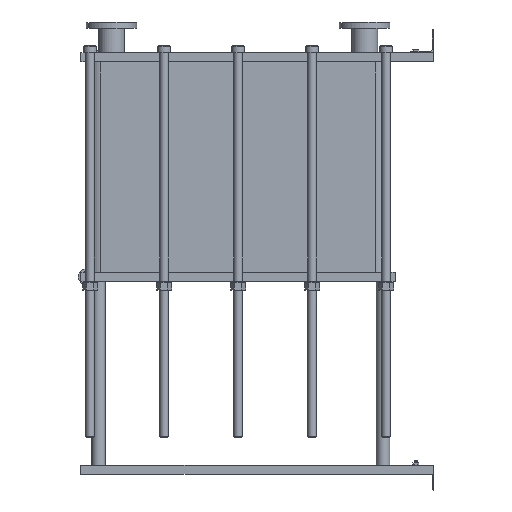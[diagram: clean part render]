
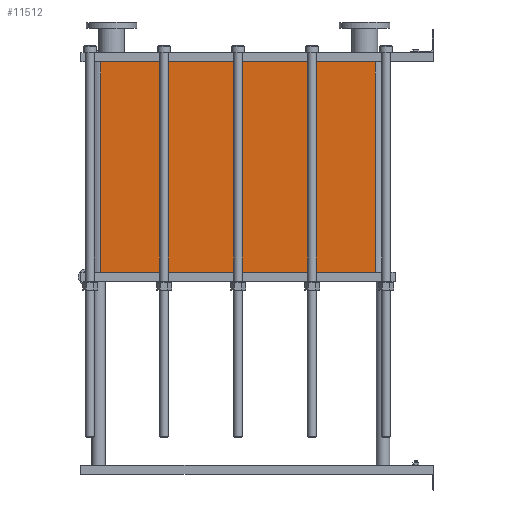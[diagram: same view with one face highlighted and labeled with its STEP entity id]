
A CAD part, left-side view. The second image highlights one B-rep face of the part: STEP entity #11512.
In plain terms, the highlighted planar face has unit normal (-1, 0, 0).
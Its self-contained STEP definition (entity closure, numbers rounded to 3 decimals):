
#1129=LINE('',#23232,#2102);
#1130=LINE('',#23236,#2103);
#1131=LINE('',#23238,#2104);
#1132=LINE('',#23239,#2105);
#2102=VECTOR('',#15887,10.);
#2103=VECTOR('',#15892,10.);
#2104=VECTOR('',#15893,10.);
#2105=VECTOR('',#15894,10.);
#3267=FACE_OUTER_BOUND('',#4093,.T.);
#4093=EDGE_LOOP('',(#10103,#10104,#10105,#10106));
#5642=VERTEX_POINT('',#23229);
#5643=VERTEX_POINT('',#23231);
#5644=VERTEX_POINT('',#23235);
#5645=VERTEX_POINT('',#23237);
#7159=EDGE_CURVE('',#5643,#5642,#1129,.T.);
#7161=EDGE_CURVE('',#5642,#5644,#1130,.T.);
#7162=EDGE_CURVE('',#5645,#5644,#1131,.T.);
#7163=EDGE_CURVE('',#5645,#5643,#1132,.T.);
#10103=ORIENTED_EDGE('',*,*,#7161,.T.);
#10104=ORIENTED_EDGE('',*,*,#7162,.F.);
#10105=ORIENTED_EDGE('',*,*,#7163,.T.);
#10106=ORIENTED_EDGE('',*,*,#7159,.T.);
#10857=PLANE('',#12751);
#11512=ADVANCED_FACE('',(#3267),#10857,.T.);
#12751=AXIS2_PLACEMENT_3D('',#23234,#15890,#15891);
#15887=DIRECTION('',(0.,0.,-1.));
#15890=DIRECTION('center_axis',(-1.,0.,0.));
#15891=DIRECTION('ref_axis',(0.,1.,0.));
#15892=DIRECTION('',(0.,-1.,0.));
#15893=DIRECTION('',(0.,0.,-1.));
#15894=DIRECTION('',(0.,1.,0.));
#23229=CARTESIAN_POINT('',(-200.,1414.,-893.55));
#23231=CARTESIAN_POINT('',(-200.,1414.,0.));
#23232=CARTESIAN_POINT('',(-200.,1414.,0.));
#23234=CARTESIAN_POINT('Origin',(-200.,248.,0.));
#23235=CARTESIAN_POINT('',(-200.,248.,-893.55));
#23236=CARTESIAN_POINT('',(-200.,539.5,-893.55));
#23237=CARTESIAN_POINT('',(-200.,248.,0.));
#23238=CARTESIAN_POINT('',(-200.,248.,0.));
#23239=CARTESIAN_POINT('',(-200.,248.,0.));
